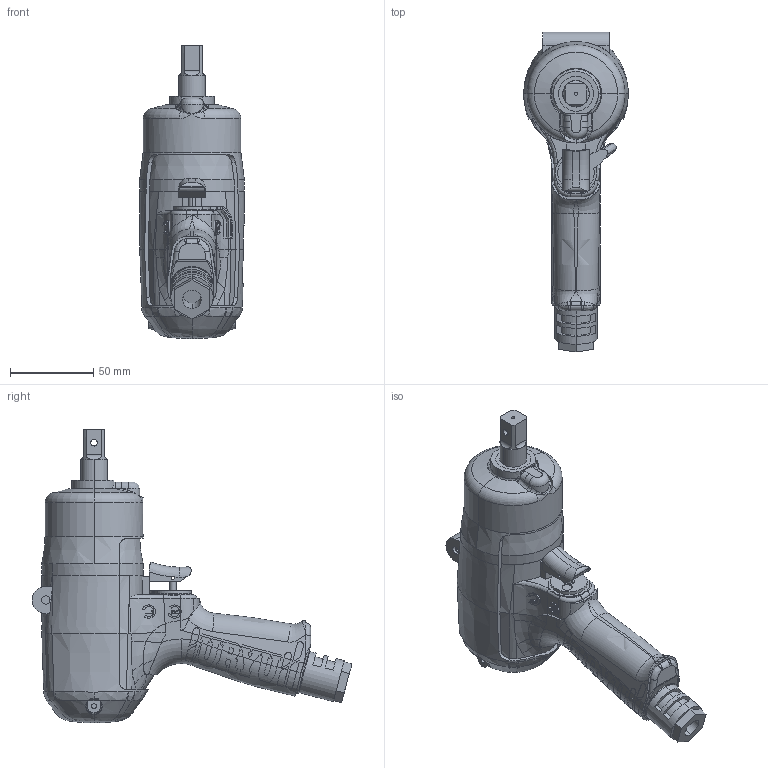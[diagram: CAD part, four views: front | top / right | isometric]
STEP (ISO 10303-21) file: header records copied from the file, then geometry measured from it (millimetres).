
FILE_DESCRIPTION (( 'STEP AP203' ), '1' );
FILE_NAME ('UL100.STEP', '2008-04-02T02:36:32', ( '瓜生製作株式会社' ), ( '技術部FAシステム課' ), 'SwSTEP 2.0', 'SolidWorks 2004073', '' );
FILE_SCHEMA (( 'CONFIG_CONTROL_DESIGN' ));
Length unit declared in the file: millimetre
Products named in the file (8): 1553190_UL100_蹬怮椔; 1558400_UL100_蹬怮椔; UL100; 1554390_UL100_蹬怮椔; 1550250_UL100_蹬怮椔; 1472128_UL100_蹬怮椔; 1471072_UL100_蹬怮椔; 1478422_UL100_蹬怮椔
Assembly tree (7 placements, depth 2):
  UL100
    1478422_UL100_蹬怮椔
    1554390_UL100_蹬怮椔
    1553190_UL100_蹬怮椔
    1471072_UL100_蹬怮椔
    1558400_UL100_蹬怮椔
    1550250_UL100_蹬怮椔
    1472128_UL100_蹬怮椔
Bounding box: 62.99 x 192.62 x 176.52 mm (x, y, z)
Volume: 526135 mm3; surface area: 119805.8 mm2
Topology: 7 solids, 7 shells, 1422 faces, 3968 edges, 2567 vertices
Faces by surface type: plane 721, bspline 382, cylinder 225, cone 45, torus 35, sphere 14
Entity records: 210236 total; most frequent: CARTESIAN_POINT 177828, ORIENTED_EDGE 7900, DIRECTION 4525, EDGE_CURVE 3950, VERTEX_POINT 2567, B_SPLINE_CURVE_WITH_KNOTS 1908, AXIS2_PLACEMENT_3D 1510, VECTOR 1505
